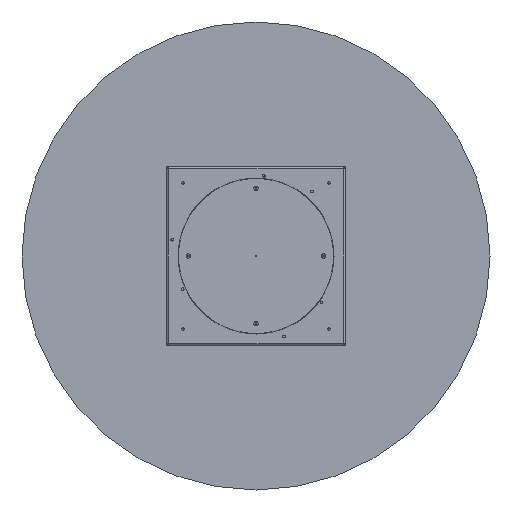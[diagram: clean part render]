
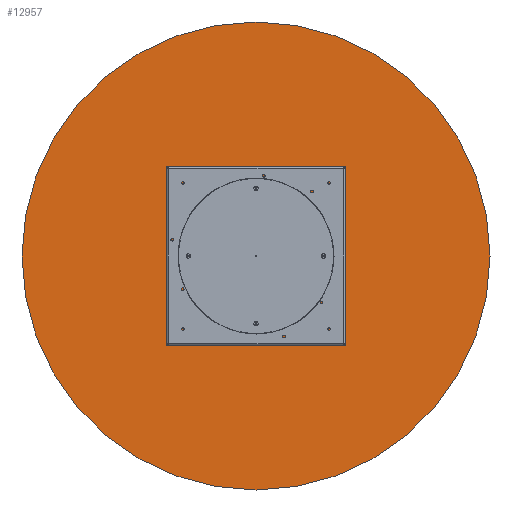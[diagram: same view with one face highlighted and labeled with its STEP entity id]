
A CAD part, front view. The second image highlights one B-rep face of the part: STEP entity #12957.
In plain terms, the highlighted planar face has unit normal (0, -1, 0).
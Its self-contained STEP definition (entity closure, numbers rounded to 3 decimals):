
#388 = CIRCLE ( 'NONE', #10015, 900. ) ;
#399 = DIRECTION ( 'NONE',  ( 0., 0., -1. ) ) ;
#2105 = ORIENTED_EDGE ( 'NONE', *, *, #10289, .T. ) ;
#3060 = CARTESIAN_POINT ( 'NONE',  ( 0., 0., 0. ) ) ;
#3390 = DIRECTION ( 'NONE',  ( 0., -1., 0. ) ) ;
#4710 = PLANE ( 'NONE',  #7821 ) ;
#5200 = DIRECTION ( 'NONE',  ( 0., -1., 0. ) ) ;
#6342 = CARTESIAN_POINT ( 'NONE',  ( 0., 0., 900. ) ) ;
#6422 = FACE_OUTER_BOUND ( 'NONE', #15502, .T. ) ;
#7821 = AXIS2_PLACEMENT_3D ( 'NONE', #11269, #9551, #399 ) ;
#7869 = EDGE_CURVE ( 'NONE', #12869, #9680, #388, .T. ) ;
#9551 = DIRECTION ( 'NONE',  ( 0., -1., 0. ) ) ;
#9680 = VERTEX_POINT ( 'NONE', #14935 ) ;
#10015 = AXIS2_PLACEMENT_3D ( 'NONE', #11125, #3390, #11884 ) ;
#10289 = EDGE_CURVE ( 'NONE', #9680, #12869, #14407, .T. ) ;
#10411 = ORIENTED_EDGE ( 'NONE', *, *, #7869, .T. ) ;
#11125 = CARTESIAN_POINT ( 'NONE',  ( 0., 0., 0. ) ) ;
#11227 = DIRECTION ( 'NONE',  ( 0., 0., -1. ) ) ;
#11269 = CARTESIAN_POINT ( 'NONE',  ( 0., 0., 0. ) ) ;
#11344 = AXIS2_PLACEMENT_3D ( 'NONE', #3060, #5200, #11227 ) ;
#11884 = DIRECTION ( 'NONE',  ( 0., 0., -1. ) ) ;
#12869 = VERTEX_POINT ( 'NONE', #6342 ) ;
#12957 = ADVANCED_FACE ( 'NONE', ( #6422 ), #4710, .T. ) ;
#14407 = CIRCLE ( 'NONE', #11344, 900. ) ;
#14935 = CARTESIAN_POINT ( 'NONE',  ( 0., 0., -900. ) ) ;
#15502 = EDGE_LOOP ( 'NONE', ( #2105, #10411 ) ) ;
